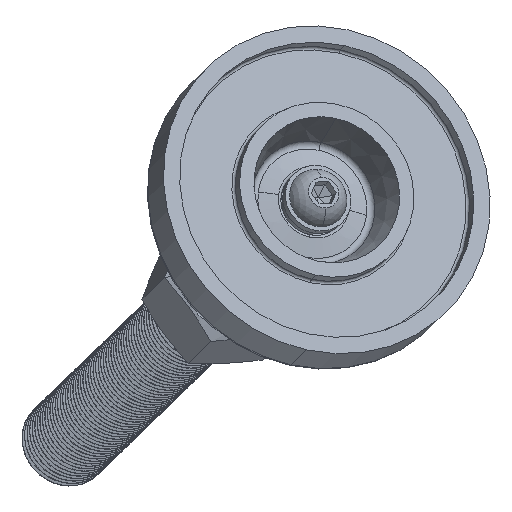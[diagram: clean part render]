
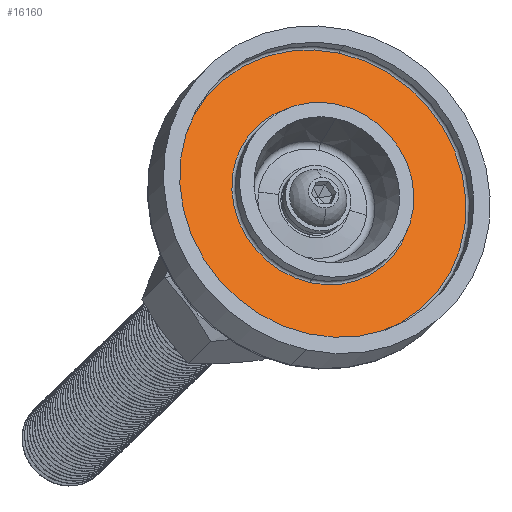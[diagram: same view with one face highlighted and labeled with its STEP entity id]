
A CAD part, front view. The second image highlights one B-rep face of the part: STEP entity #16160.
In plain terms, the highlighted planar face has unit normal (0.296, -0.911, 0.286) as drawn and (-1, 0, 0) by its records, which use the part's own axes.
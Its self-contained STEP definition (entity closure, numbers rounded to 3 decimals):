
#109 = EDGE_CURVE ( 'NONE', #6482, #6490, #18778, .T. ) ;
#110 = EDGE_CURVE ( 'NONE', #6568, #6624, #18779, .T. ) ;
#112 = EDGE_CURVE ( 'NONE', #6490, #6482, #18782, .T. ) ;
#168 = EDGE_CURVE ( 'NONE', #6624, #6568, #18846, .T. ) ;
#513 = CARTESIAN_POINT ( 'NONE',  ( 34.237, 55.379, 0. ) ) ;
#514 = DIRECTION ( 'NONE',  ( 1., 0., 0. ) ) ;
#515 = DIRECTION ( 'NONE',  ( 0., 0., -1. ) ) ;
#517 = CARTESIAN_POINT ( 'NONE',  ( 34.237, 55.379, 0. ) ) ;
#518 = DIRECTION ( 'NONE',  ( 1., 0., 0. ) ) ;
#519 = DIRECTION ( 'NONE',  ( 0., 0., -1. ) ) ;
#524 = CARTESIAN_POINT ( 'NONE',  ( 34.237, 55.379, 0. ) ) ;
#525 = DIRECTION ( 'NONE',  ( 1., 0., 0. ) ) ;
#526 = DIRECTION ( 'NONE',  ( 0., 0., -1. ) ) ;
#678 = CARTESIAN_POINT ( 'NONE',  ( 34.237, 55.379, 0. ) ) ;
#679 = DIRECTION ( 'NONE',  ( 1., 0., 0. ) ) ;
#680 = DIRECTION ( 'NONE',  ( 0., 0., -1. ) ) ;
#1644 = AXIS2_PLACEMENT_3D ( 'NONE', #6111, #6116, #6117 ) ;
#6111 = CARTESIAN_POINT ( 'NONE',  ( 34.237, 66.615, 0. ) ) ;
#6114 = PLANE ( 'NONE',  #1644 ) ;
#6116 = DIRECTION ( 'NONE',  ( -1., 0., 0. ) ) ;
#6117 = DIRECTION ( 'NONE',  ( 0., 0., 1. ) ) ;
#6482 = VERTEX_POINT ( 'NONE', #17217 ) ;
#6490 = VERTEX_POINT ( 'NONE', #17219 ) ;
#6568 = VERTEX_POINT ( 'NONE', #17297 ) ;
#6624 = VERTEX_POINT ( 'NONE', #17347 ) ;
#7044 = ORIENTED_EDGE ( 'NONE', *, *, #110, .T. ) ;
#7046 = ORIENTED_EDGE ( 'NONE', *, *, #168, .T. ) ;
#7048 = ORIENTED_EDGE ( 'NONE', *, *, #109, .F. ) ;
#7050 = ORIENTED_EDGE ( 'NONE', *, *, #112, .F. ) ;
#8595 = EDGE_LOOP ( 'NONE', ( #7048, #7050 ) ) ;
#8597 = EDGE_LOOP ( 'NONE', ( #7044, #7046 ) ) ;
#16160 = ADVANCED_FACE ( 'NONE', ( #21399, #21396 ), #6114, .T. ) ;
#17217 = CARTESIAN_POINT ( 'NONE',  ( 34.237, 55.379, -26.5 ) ) ;
#17219 = CARTESIAN_POINT ( 'NONE',  ( 34.237, 55.379, 26.5 ) ) ;
#17297 = CARTESIAN_POINT ( 'NONE',  ( 34.237, 55.379, -16.5 ) ) ;
#17347 = CARTESIAN_POINT ( 'NONE',  ( 34.237, 55.379, 16.5 ) ) ;
#18778 = CIRCLE ( 'NONE', #23592, 26.5 ) ;
#18779 = CIRCLE ( 'NONE', #23593, 16.5 ) ;
#18782 = CIRCLE ( 'NONE', #23595, 26.5 ) ;
#18846 = CIRCLE ( 'NONE', #23639, 16.5 ) ;
#21396 = FACE_OUTER_BOUND ( 'NONE', #8595, .T. ) ;
#21399 = FACE_BOUND ( 'NONE', #8597, .T. ) ;
#23592 = AXIS2_PLACEMENT_3D ( 'NONE', #513, #514, #515 ) ;
#23593 = AXIS2_PLACEMENT_3D ( 'NONE', #517, #518, #519 ) ;
#23595 = AXIS2_PLACEMENT_3D ( 'NONE', #524, #525, #526 ) ;
#23639 = AXIS2_PLACEMENT_3D ( 'NONE', #678, #679, #680 ) ;
